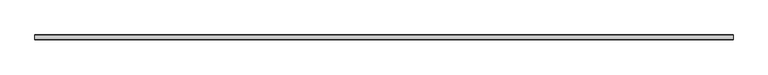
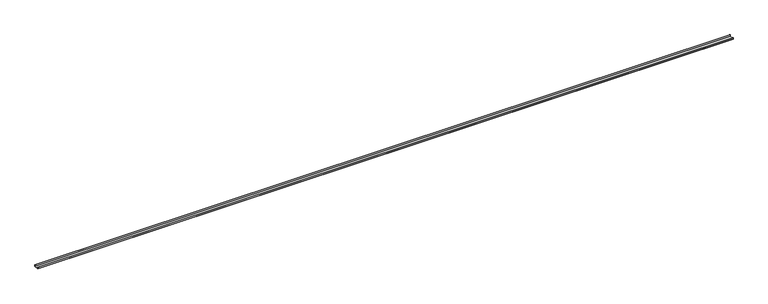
"""IFC4 building model written with IfcOpenShell, lengths in millimetres: proxy geometry, SICON Track Inferior 2 1-2 : SICON Track Inferior 2 1/2."""

from ifc_helpers import new_model, si_unit, frame, origin, place, context, project, spatial, polyline, outline, extrude, source, transform, mapped, element, save


def generic_models_88bf83bc(model_context):
    return source(origin(), model_context, "Body", "SweptSolid", [
        extrude(outline(polyline([(31.9948151, 0.0), (-31.9948151, 0.0), (-31.9948151, 22.0), (-30.9948151, 22.0), (-30.9948151, 1.0), (30.9948151, 1.0), (30.9948151, 22.0), (31.9948151, 22.0), (31.9948151, 0.0)])), frame((2.5746571, 0.0, 0.0), z_axis=(1.0, 0.0, 0.0), x_axis=(0.0, 1.0, 0.0)), (0.0, 0.0, 1.0), 9500.0),
    ])


if __name__ == "__main__":
    model = new_model("IFC4")
    model_context = context("Model", 3, world=origin())
    ifc_project = project(units=[si_unit("LENGTHUNIT", "METRE", prefix="MILLI")], contexts=[model_context])
    site = spatial("IfcSite", under=ifc_project)
    building = spatial("IfcBuilding", under=site)
    placement = place(None, origin())
    generic_models_shape = generic_models_88bf83bc(model_context)
    element("IfcBuildingElementProxy", 1, Name="SICON Track Inferior 2 1-2 : SICON Track Inferior 2 1/2", ObjectType="SICON Track Inferior 2 1-2 : SICON Track Inferior 2 1/2", at=placement, inside=building, context=model_context, shape_type="MappedRepresentation", body=[
        mapped(generic_models_shape, transform((0.0, 0.0, 0.0), x_axis=(1.0, 0.0, 0.0), y_axis=(0.0, 1.0, 0.0), z_axis=(0.0, 0.0, 1.0))),
    ])
    save(model, "model.ifc")
